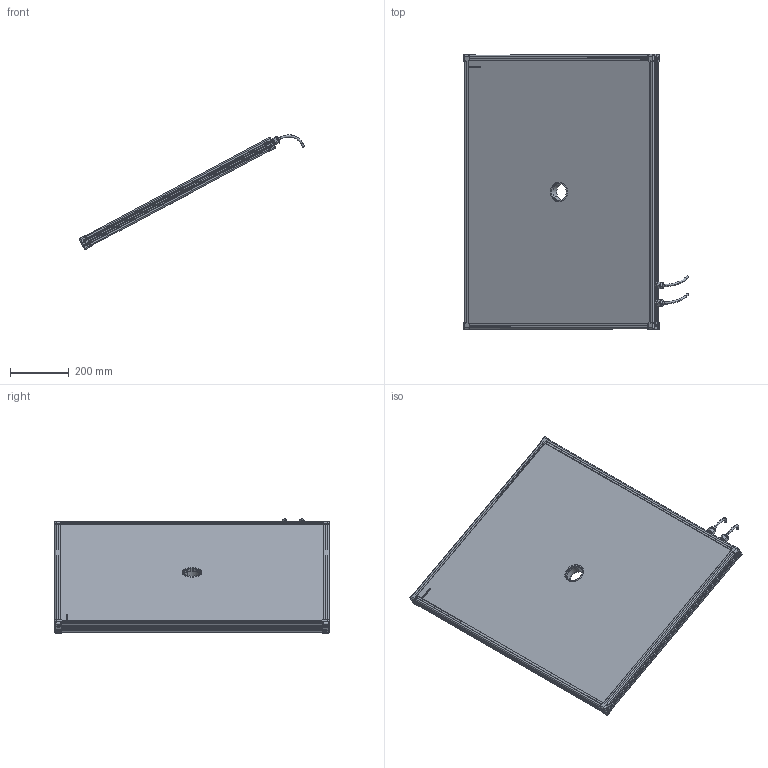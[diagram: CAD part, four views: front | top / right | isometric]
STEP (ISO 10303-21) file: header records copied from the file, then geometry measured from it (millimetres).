
FILE_DESCRIPTION (( 'STEP AP214' ), '1' );
FILE_NAME ('EFFI-FD-700-900-ZZZ-2M12P.STEP', '2021-06-21T10:09:15', ( '' ), ( '' ), 'SwSTEP 2.0', 'SolidWorks 2021', '' );
FILE_SCHEMA (( 'AUTOMOTIVE_DESIGN' ));
Length unit declared in the file: millimetre
Products named in the file (13): 001038; profile X_PERCE; M12 power; petite joue; Assemblage Ø58.5; EFFI-FD-700-900-ZZZ-2M12P; Pièce13^EFFI-FD-XXX-YYY-ZZZ (2 connecteurs) M12 POWER Ø58.5; 000590; 001037; profile Y_PERCE; 000629; petite joue + vis
Assembly tree (20 placements, depth 3):
  EFFI-FD-700-900-ZZZ-2M12P
    profile X_PERCE  x2
    profile Y_PERCE
    profile Y_PERCE
    Pièce13^EFFI-FD-XXX-YYY-ZZZ (2 connecteurs) M12 POWER Ø58.5
    petite joue + vis  x4
      petite joue
      000629
    M12 power  x2
    Assemblage Ø58.5
      001037
      001038
      000590  x3
Bounding box: 767.86 x 939 x 391.04 mm (x, y, z)
Volume: 24046521.8 mm3; surface area: 1907060.5 mm2
Topology: 22 solids, 28 shells, 4002 faces, 10650 edges, 6994 vertices
Faces by surface type: plane 2479, cylinder 737, bspline 591, cone 154, torus 33, sphere 8
Entity records: 56584 total; most frequent: CARTESIAN_POINT 22742, ORIENTED_EDGE 7114, DIRECTION 5810, EDGE_CURVE 3559, LINE 2478, VECTOR 2478, VERTEX_POINT 2341, AXIS2_PLACEMENT_3D 1666
